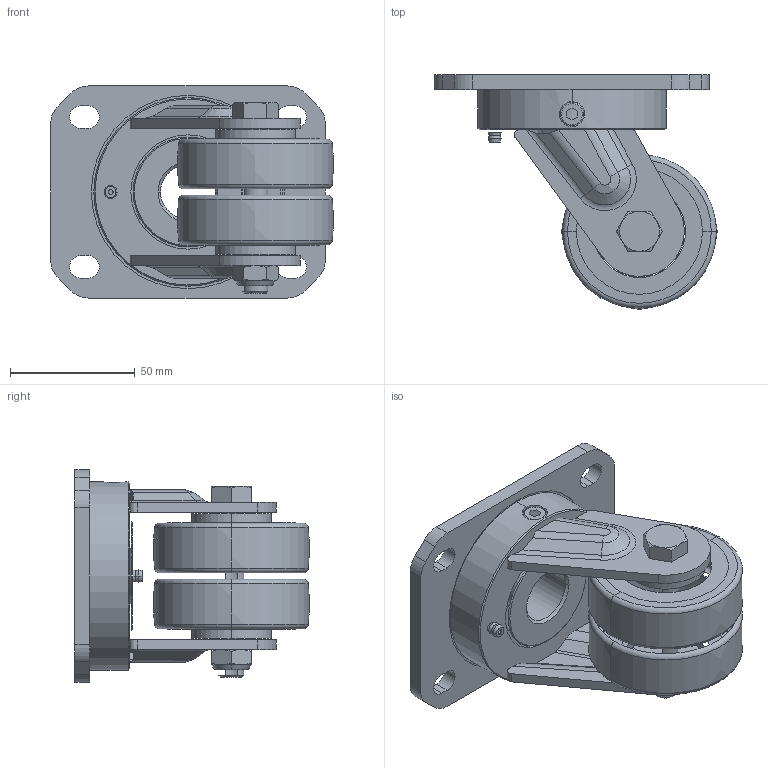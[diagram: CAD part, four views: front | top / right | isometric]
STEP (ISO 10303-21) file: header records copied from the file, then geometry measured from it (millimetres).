
FILE_DESCRIPTION((''),'2;1');
FILE_NAME('PRT0002','2025-07-03T16:26:03',('Administrator'),(''),'CREO PARAMETRIC BY PTC INC, 2022124','CREO PARAMETRIC BY PTC INC, 2022124','');
FILE_SCHEMA(('AUTOMOTIVE_DESIGN { 1 0 10303 214 1 1 1 1 }'));
Length unit declared in the file: millimetre
Products named in the file (1): PRT0002
Bounding box: 113.2 x 93.95 x 85 mm (x, y, z)
Surface area: 52896.8 mm2 (no closed solid volume)
Topology: 0 solids, 15 shells, 164 faces, 450 edges, 298 vertices
Faces by surface type: plane 60, cylinder 45, cone 35, torus 18, bspline 6
Entity records: 6858 total; most frequent: CARTESIAN_POINT 1424, DIRECTION 934, ORIENTED_EDGE 773, EDGE_CURVE 450, AXIS2_PLACEMENT_3D 367, VERTEX_POINT 298, CIRCLE 199, VECTOR 197
